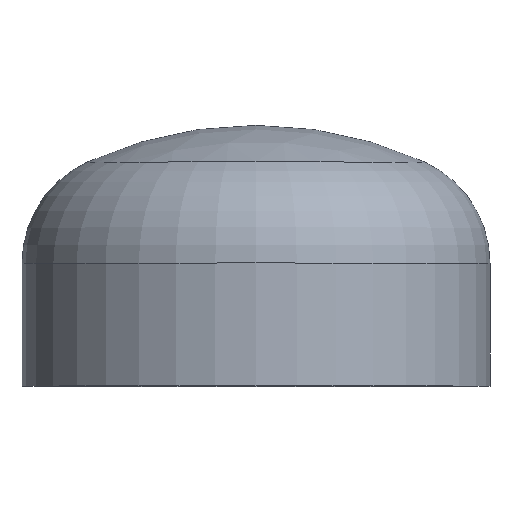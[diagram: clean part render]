
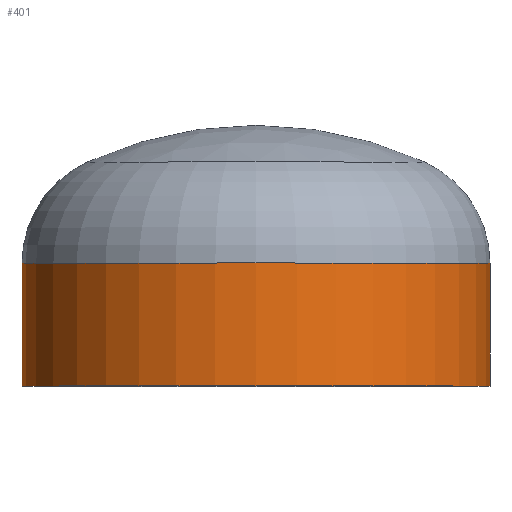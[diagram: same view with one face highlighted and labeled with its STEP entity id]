
A CAD part, top view. The second image highlights one B-rep face of the part: STEP entity #401.
In plain terms, the highlighted cylindrical face has radius 161.95 mm (diameter 323.9 mm), a partial arc.
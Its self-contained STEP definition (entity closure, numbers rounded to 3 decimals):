
#1 = VERTEX_POINT ( 'NONE', #239 ) ;
#25 = ORIENTED_EDGE ( 'NONE', *, *, #369, .F. ) ;
#32 = VERTEX_POINT ( 'NONE', #345 ) ;
#50 = VERTEX_POINT ( 'NONE', #233 ) ;
#71 = AXIS2_PLACEMENT_3D ( 'NONE', #322, #321, #339 ) ;
#79 = ORIENTED_EDGE ( 'NONE', *, *, #348, .F. ) ;
#82 = VERTEX_POINT ( 'NONE', #220 ) ;
#96 = DIRECTION ( 'NONE',  ( 1., 0., 0. ) ) ;
#97 = EDGE_CURVE ( 'NONE', #1, #82, #191, .T. ) ;
#107 = LINE ( 'NONE', #330, #380 ) ;
#125 = EDGE_LOOP ( 'NONE', ( #336, #391, #79, #25 ) ) ;
#136 = LINE ( 'NONE', #247, #318 ) ;
#151 = CARTESIAN_POINT ( 'NONE',  ( 0., 0., 0. ) ) ;
#158 = CARTESIAN_POINT ( 'NONE',  ( 0., 0., 0. ) ) ;
#170 = CYLINDRICAL_SURFACE ( 'NONE', #410, 161.95 ) ;
#191 = CIRCLE ( 'NONE', #71, 161.95 ) ;
#220 = CARTESIAN_POINT ( 'NONE',  ( -161.95, 85., 0. ) ) ;
#223 = DIRECTION ( 'NONE',  ( 0., -1., 0. ) ) ;
#231 = DIRECTION ( 'NONE',  ( 0., -1., 0. ) ) ;
#233 = CARTESIAN_POINT ( 'NONE',  ( -161.95, 0., 0. ) ) ;
#239 = CARTESIAN_POINT ( 'NONE',  ( 161.95, 85., 0. ) ) ;
#247 = CARTESIAN_POINT ( 'NONE',  ( -161.95, 0., 0. ) ) ;
#248 = FACE_OUTER_BOUND ( 'NONE', #125, .T. ) ;
#296 = AXIS2_PLACEMENT_3D ( 'NONE', #151, #231, #357 ) ;
#298 = DIRECTION ( 'NONE',  ( 0., -1., 0. ) ) ;
#318 = VECTOR ( 'NONE', #223, 1000. ) ;
#321 = DIRECTION ( 'NONE',  ( 0., -1., 0. ) ) ;
#322 = CARTESIAN_POINT ( 'NONE',  ( 0., 85., 0. ) ) ;
#330 = CARTESIAN_POINT ( 'NONE',  ( 161.95, 0., 0. ) ) ;
#331 = DIRECTION ( 'NONE',  ( 0., -1., 0. ) ) ;
#336 = ORIENTED_EDGE ( 'NONE', *, *, #97, .T. ) ;
#339 = DIRECTION ( 'NONE',  ( 1., 0., 0. ) ) ;
#345 = CARTESIAN_POINT ( 'NONE',  ( 161.95, 0., 0. ) ) ;
#348 = EDGE_CURVE ( 'NONE', #32, #50, #395, .T. ) ;
#350 = EDGE_CURVE ( 'NONE', #82, #50, #136, .T. ) ;
#357 = DIRECTION ( 'NONE',  ( 1., 0., 0. ) ) ;
#369 = EDGE_CURVE ( 'NONE', #1, #32, #107, .T. ) ;
#380 = VECTOR ( 'NONE', #331, 1000. ) ;
#391 = ORIENTED_EDGE ( 'NONE', *, *, #350, .T. ) ;
#395 = CIRCLE ( 'NONE', #296, 161.95 ) ;
#401 = ADVANCED_FACE ( 'NONE', ( #248 ), #170, .T. ) ;
#410 = AXIS2_PLACEMENT_3D ( 'NONE', #158, #298, #96 ) ;
